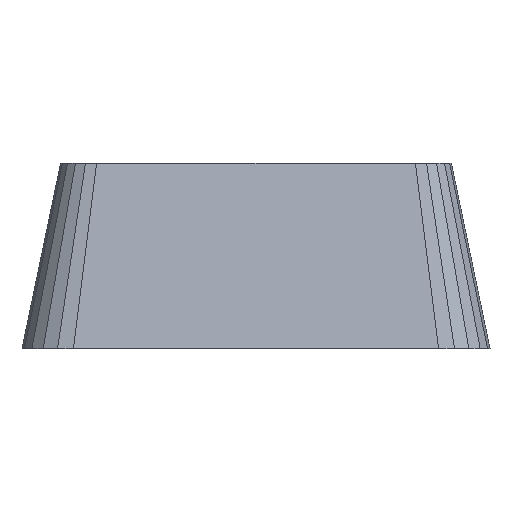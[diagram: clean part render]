
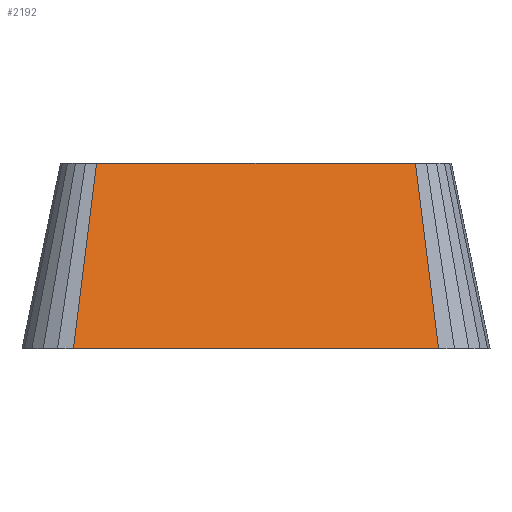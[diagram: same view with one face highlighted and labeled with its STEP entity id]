
A CAD part, front view. The second image highlights one B-rep face of the part: STEP entity #2192.
In plain terms, the highlighted free-form (B-spline) face has degree [1, 1] with [2, 2] control points.
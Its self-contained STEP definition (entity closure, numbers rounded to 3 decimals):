
#44 = PLANE('',#45);
#45 = AXIS2_PLACEMENT_3D('',#46,#47,#48);
#46 = CARTESIAN_POINT('',(9.1,11.6,15.));
#47 = DIRECTION('',(-0.,0.,-1.));
#48 = DIRECTION('',(-0.757,-0.653,0.));
#98 = PLANE('',#99);
#99 = AXIS2_PLACEMENT_3D('',#100,#101,#102);
#100 = CARTESIAN_POINT('',(7.6,10.7,22.2));
#101 = DIRECTION('',(-0.,0.,-1.));
#102 = DIRECTION('',(-0.749,-0.663,0.));
#275 = VERTEX_POINT('',#276);
#276 = CARTESIAN_POINT('',(7.1,-4.6,15.));
#290 = B_SPLINE_SURFACE_WITH_KNOTS('',1,1,(
    (#291,#292)
    ,(#293,#294
    )),.UNSPECIFIED.,.F.,.F.,.F.,(2,2),(2,2),(0.,0.626),(0.,1.)
  ,.PIECEWISE_BEZIER_KNOTS.);
#291 = CARTESIAN_POINT('',(7.1,-4.6,15.));
#292 = CARTESIAN_POINT('',(6.2,-3.1,22.2));
#293 = CARTESIAN_POINT('',(7.718,-4.502,15.));
#294 = CARTESIAN_POINT('',(6.633,-3.031,22.2));
#302 = EDGE_CURVE('',#303,#275,#305,.T.);
#303 = VERTEX_POINT('',#304);
#304 = CARTESIAN_POINT('',(-7.1,-4.6,15.));
#305 = SURFACE_CURVE('',#306,(#310,#317),.PCURVE_S1.);
#306 = LINE('',#307,#308);
#307 = CARTESIAN_POINT('',(-7.1,-4.6,15.));
#308 = VECTOR('',#309,1.);
#309 = DIRECTION('',(1.,0.,0.));
#310 = PCURVE('',#44,#311);
#311 = DEFINITIONAL_REPRESENTATION('',(#312),#316);
#312 = LINE('',#313,#314);
#313 = CARTESIAN_POINT('',(22.848,-1.681));
#314 = VECTOR('',#315,1.);
#315 = DIRECTION('',(-0.757,-0.653));
#316 = ( GEOMETRIC_REPRESENTATION_CONTEXT(2) 
PARAMETRIC_REPRESENTATION_CONTEXT() REPRESENTATION_CONTEXT('2D SPACE',''
  ) );
#317 = PCURVE('',#318,#323);
#318 = B_SPLINE_SURFACE_WITH_KNOTS('',1,1,(
    (#319,#320)
    ,(#321,#322
    )),.UNSPECIFIED.,.F.,.F.,.F.,(2,2),(2,2),(0.,14.2),(0.,1.),
  .PIECEWISE_BEZIER_KNOTS.);
#319 = CARTESIAN_POINT('',(-7.1,-4.6,15.));
#320 = CARTESIAN_POINT('',(-6.2,-3.1,22.2));
#321 = CARTESIAN_POINT('',(7.1,-4.6,15.));
#322 = CARTESIAN_POINT('',(6.2,-3.1,22.2));
#323 = DEFINITIONAL_REPRESENTATION('',(#324),#328);
#324 = LINE('',#325,#326);
#325 = CARTESIAN_POINT('',(0.,0.));
#326 = VECTOR('',#327,1.);
#327 = DIRECTION('',(1.,0.));
#328 = ( GEOMETRIC_REPRESENTATION_CONTEXT(2) 
PARAMETRIC_REPRESENTATION_CONTEXT() REPRESENTATION_CONTEXT('2D SPACE',''
  ) );
#346 = B_SPLINE_SURFACE_WITH_KNOTS('',1,1,(
    (#347,#348)
    ,(#349,#350
    )),.UNSPECIFIED.,.F.,.F.,.F.,(2,2),(2,2),(0.,0.626),(0.,1.)
  ,.PIECEWISE_BEZIER_KNOTS.);
#347 = CARTESIAN_POINT('',(-7.718,-4.502,15.));
#348 = CARTESIAN_POINT('',(-6.633,-3.031,22.2));
#349 = CARTESIAN_POINT('',(-7.1,-4.6,15.));
#350 = CARTESIAN_POINT('',(-6.2,-3.1,22.2));
#1734 = VERTEX_POINT('',#1735);
#1735 = CARTESIAN_POINT('',(-6.2,-3.1,22.2));
#1755 = EDGE_CURVE('',#1734,#1756,#1758,.T.);
#1756 = VERTEX_POINT('',#1757);
#1757 = CARTESIAN_POINT('',(6.2,-3.1,22.2));
#1758 = SURFACE_CURVE('',#1759,(#1763,#1770),.PCURVE_S1.);
#1759 = LINE('',#1760,#1761);
#1760 = CARTESIAN_POINT('',(-6.2,-3.1,22.2));
#1761 = VECTOR('',#1762,1.);
#1762 = DIRECTION('',(1.,0.,0.));
#1763 = PCURVE('',#98,#1764);
#1764 = DEFINITIONAL_REPRESENTATION('',(#1765),#1769);
#1765 = LINE('',#1766,#1767);
#1766 = CARTESIAN_POINT('',(19.48,-1.183));
#1767 = VECTOR('',#1768,1.);
#1768 = DIRECTION('',(-0.749,-0.663));
#1769 = ( GEOMETRIC_REPRESENTATION_CONTEXT(2) 
PARAMETRIC_REPRESENTATION_CONTEXT() REPRESENTATION_CONTEXT('2D SPACE',''
  ) );
#1770 = PCURVE('',#318,#1771);
#1771 = DEFINITIONAL_REPRESENTATION('',(#1772),#1775);
#1772 = B_SPLINE_CURVE_WITH_KNOTS('',1,(#1773,#1774),.UNSPECIFIED.,.F.,
  .F.,(2,2),(0.,12.4),.PIECEWISE_BEZIER_KNOTS.);
#1773 = CARTESIAN_POINT('',(0.,1.));
#1774 = CARTESIAN_POINT('',(14.2,1.));
#1775 = ( GEOMETRIC_REPRESENTATION_CONTEXT(2) 
PARAMETRIC_REPRESENTATION_CONTEXT() REPRESENTATION_CONTEXT('2D SPACE',''
  ) );
#2147 = EDGE_CURVE('',#275,#1756,#2148,.T.);
#2148 = SURFACE_CURVE('',#2149,(#2152,#2159),.PCURVE_S1.);
#2149 = B_SPLINE_CURVE_WITH_KNOTS('',1,(#2150,#2151),.UNSPECIFIED.,.F.,
  .F.,(2,2),(0.,1.),.PIECEWISE_BEZIER_KNOTS.);
#2150 = CARTESIAN_POINT('',(7.1,-4.6,15.));
#2151 = CARTESIAN_POINT('',(6.2,-3.1,22.2));
#2152 = PCURVE('',#290,#2153);
#2153 = DEFINITIONAL_REPRESENTATION('',(#2154),#2158);
#2154 = LINE('',#2155,#2156);
#2155 = CARTESIAN_POINT('',(0.,0.));
#2156 = VECTOR('',#2157,1.);
#2157 = DIRECTION('',(0.,1.));
#2158 = ( GEOMETRIC_REPRESENTATION_CONTEXT(2) 
PARAMETRIC_REPRESENTATION_CONTEXT() REPRESENTATION_CONTEXT('2D SPACE',''
  ) );
#2159 = PCURVE('',#318,#2160);
#2160 = DEFINITIONAL_REPRESENTATION('',(#2161),#2165);
#2161 = LINE('',#2162,#2163);
#2162 = CARTESIAN_POINT('',(14.2,0.));
#2163 = VECTOR('',#2164,1.);
#2164 = DIRECTION('',(0.,1.));
#2165 = ( GEOMETRIC_REPRESENTATION_CONTEXT(2) 
PARAMETRIC_REPRESENTATION_CONTEXT() REPRESENTATION_CONTEXT('2D SPACE',''
  ) );
#2192 = ADVANCED_FACE('',(#2193),#318,.T.);
#2193 = FACE_BOUND('',#2194,.T.);
#2194 = EDGE_LOOP('',(#2195,#2196,#2197,#2198));
#2195 = ORIENTED_EDGE('',*,*,#302,.T.);
#2196 = ORIENTED_EDGE('',*,*,#2147,.T.);
#2197 = ORIENTED_EDGE('',*,*,#1755,.F.);
#2198 = ORIENTED_EDGE('',*,*,#2199,.F.);
#2199 = EDGE_CURVE('',#303,#1734,#2200,.T.);
#2200 = SURFACE_CURVE('',#2201,(#2204,#2211),.PCURVE_S1.);
#2201 = B_SPLINE_CURVE_WITH_KNOTS('',1,(#2202,#2203),.UNSPECIFIED.,.F.,
  .F.,(2,2),(0.,1.),.PIECEWISE_BEZIER_KNOTS.);
#2202 = CARTESIAN_POINT('',(-7.1,-4.6,15.));
#2203 = CARTESIAN_POINT('',(-6.2,-3.1,22.2));
#2204 = PCURVE('',#318,#2205);
#2205 = DEFINITIONAL_REPRESENTATION('',(#2206),#2210);
#2206 = LINE('',#2207,#2208);
#2207 = CARTESIAN_POINT('',(0.,0.));
#2208 = VECTOR('',#2209,1.);
#2209 = DIRECTION('',(0.,1.));
#2210 = ( GEOMETRIC_REPRESENTATION_CONTEXT(2) 
PARAMETRIC_REPRESENTATION_CONTEXT() REPRESENTATION_CONTEXT('2D SPACE',''
  ) );
#2211 = PCURVE('',#346,#2212);
#2212 = DEFINITIONAL_REPRESENTATION('',(#2213),#2217);
#2213 = LINE('',#2214,#2215);
#2214 = CARTESIAN_POINT('',(0.626,0.));
#2215 = VECTOR('',#2216,1.);
#2216 = DIRECTION('',(0.,1.));
#2217 = ( GEOMETRIC_REPRESENTATION_CONTEXT(2) 
PARAMETRIC_REPRESENTATION_CONTEXT() REPRESENTATION_CONTEXT('2D SPACE',''
  ) );
